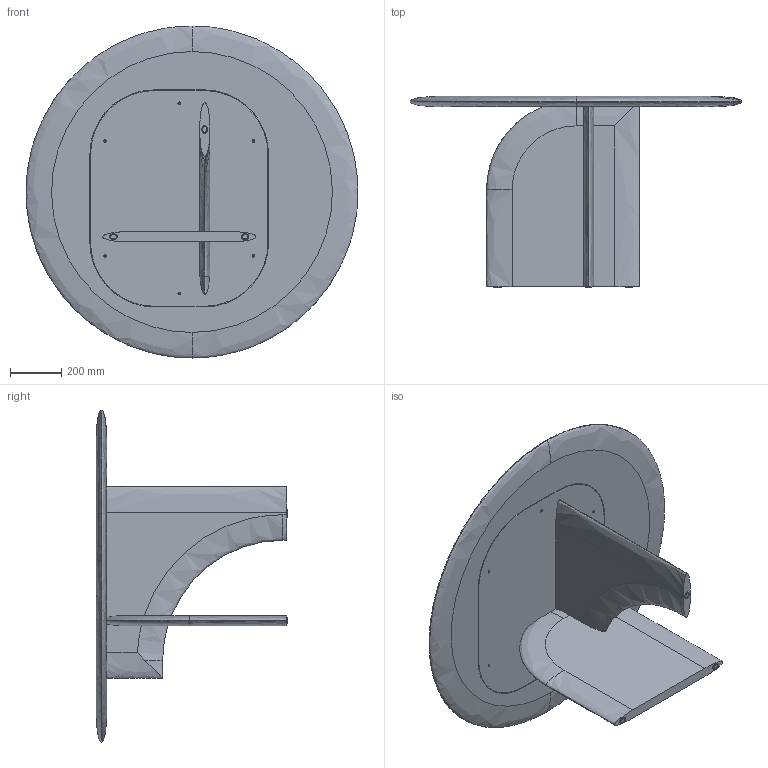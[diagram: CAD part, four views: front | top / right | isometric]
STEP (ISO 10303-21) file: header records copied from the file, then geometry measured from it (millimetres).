
FILE_DESCRIPTION (( 'STEP AP214' ), '1' );
FILE_NAME ('SELCE T Diam.1300.STEP', '2024-05-14T15:57:29', ( '' ), ( '' ), 'SwSTEP 2.0', 'SolidWorks 2023', '' );
FILE_SCHEMA (( 'AUTOMOTIVE_DESIGN' ));
Length unit declared in the file: millimetre
Products named in the file (6): SCIVOLO_IPEA_20PTPD007N; CROCE FERRO; TOP_DIAM 1300; GAMBE e PIASTRA_GAMBA B; SELCE T Diam.1300; GAMBE e PIASTRA_PIASTRA B
Assembly tree (7 placements, depth 2):
  SELCE T Diam.1300
    TOP_DIAM 1300
    GAMBE e PIASTRA_GAMBA B
    GAMBE e PIASTRA_PIASTRA B
    CROCE FERRO
    SCIVOLO_IPEA_20PTPD007N  x3
Bounding box: 1298.99 x 749 x 1300 mm (x, y, z)
Volume: 75116574.2 mm3; surface area: 5362565.7 mm2
Topology: 9 solids, 9 shells, 329 faces, 831 edges, 497 vertices
Faces by surface type: cylinder 132, cone 80, plane 80, bspline 37
Entity records: 11896 total; most frequent: CARTESIAN_POINT 4594, DIRECTION 1475, ORIENTED_EDGE 1462, EDGE_CURVE 731, AXIS2_PLACEMENT_3D 564, VERTEX_POINT 465, EDGE_LOOP 382, LINE 347
